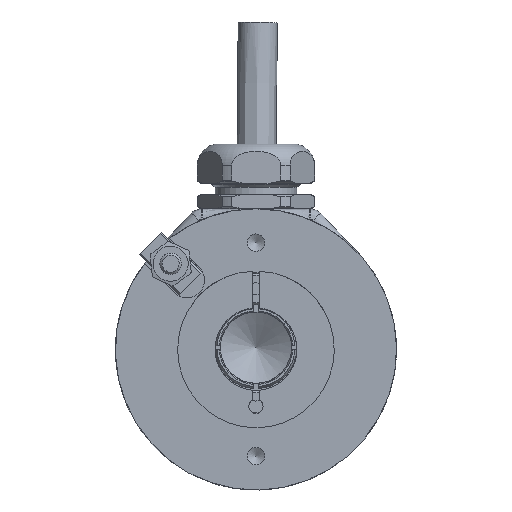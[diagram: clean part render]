
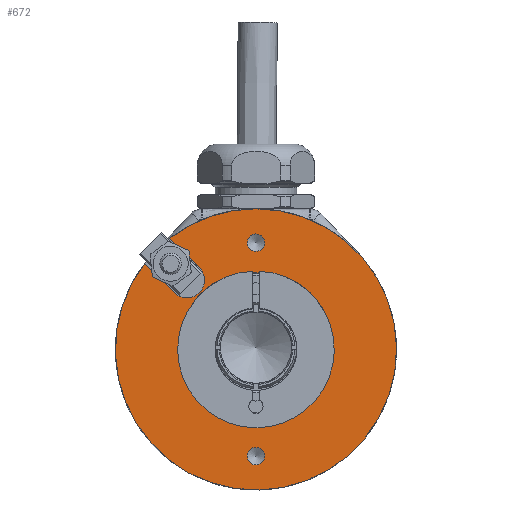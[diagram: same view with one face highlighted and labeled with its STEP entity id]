
A CAD part, left-side view. The second image highlights one B-rep face of the part: STEP entity #672.
In plain terms, the highlighted planar face has unit normal (-1, 0, 0).
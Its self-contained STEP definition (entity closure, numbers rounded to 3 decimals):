
#672 = ADVANCED_FACE( '', ( #1668, #1669, #1670, #1671 ), #1672, .T. );
#1668 = FACE_OUTER_BOUND( '', #3182, .T. );
#1669 = FACE_BOUND( '', #3183, .T. );
#1670 = FACE_BOUND( '', #3184, .T. );
#1671 = FACE_BOUND( '', #3185, .T. );
#1672 = PLANE( '', #3186 );
#3182 = EDGE_LOOP( '', ( #5462, #5463, #5464, #5465 ) );
#3183 = EDGE_LOOP( '', ( #5466 ) );
#3184 = EDGE_LOOP( '', ( #5467 ) );
#3185 = EDGE_LOOP( '', ( #5468 ) );
#3186 = AXIS2_PLACEMENT_3D( '', #5469, #5470, #5471 );
#5462 = ORIENTED_EDGE( '', *, *, #8334, .F. );
#5463 = ORIENTED_EDGE( '', *, *, #8335, .F. );
#5464 = ORIENTED_EDGE( '', *, *, #8336, .F. );
#5465 = ORIENTED_EDGE( '', *, *, #8156, .T. );
#5466 = ORIENTED_EDGE( '', *, *, #8337, .T. );
#5467 = ORIENTED_EDGE( '', *, *, #8338, .T. );
#5468 = ORIENTED_EDGE( '', *, *, #8339, .F. );
#5469 = CARTESIAN_POINT( '', ( 0., 0., 10.539 ) );
#5470 = DIRECTION( '', ( -1., 0., 0. ) );
#5471 = DIRECTION( '', ( 0., 0., 1. ) );
#8156 = EDGE_CURVE( '', #9419, #9416, #9420, .T. );
#8334 = EDGE_CURVE( '', #9713, #9416, #9714, .T. );
#8335 = EDGE_CURVE( '', #9715, #9713, #9716, .T. );
#8336 = EDGE_CURVE( '', #9419, #9715, #9717, .T. );
#8337 = EDGE_CURVE( '', #9718, #9718, #9719, .T. );
#8338 = EDGE_CURVE( '', #9720, #9720, #9721, .T. );
#8339 = EDGE_CURVE( '', #9722, #9722, #9723, .T. );
#9416 = VERTEX_POINT( '', #11137 );
#9419 = VERTEX_POINT( '', #11141 );
#9420 = CIRCLE( '', #11142, 19.75 );
#9713 = VERTEX_POINT( '', #11675 );
#9714 = LINE( '', #11676, #11677 );
#9715 = VERTEX_POINT( '', #11678 );
#9716 = CIRCLE( '', #11679, 2.5 );
#9717 = LINE( '', #11680, #11681 );
#9718 = VERTEX_POINT( '', #11682 );
#9719 = CIRCLE( '', #11683, 1.23 );
#9720 = VERTEX_POINT( '', #11684 );
#9721 = CIRCLE( '', #11685, 1.23 );
#9722 = VERTEX_POINT( '', #11686 );
#9723 = CIRCLE( '', #11687, 10.789 );
#11137 = CARTESIAN_POINT( '', ( 0., 12.085, 15.371 ) );
#11141 = CARTESIAN_POINT( '', ( 0., 15.621, 11.835 ) );
#11142 = AXIS2_PLACEMENT_3D( '', #14157, #14158, #14159 );
#11675 = CARTESIAN_POINT( '', ( 0., 7.955, 11.24 ) );
#11676 = CARTESIAN_POINT( '', ( 0., 7.955, 11.24 ) );
#11677 = VECTOR( '', #14390, 1000. );
#11678 = CARTESIAN_POINT( '', ( 0., 11.49, 7.705 ) );
#11679 = AXIS2_PLACEMENT_3D( '', #14391, #14392, #14393 );
#11680 = CARTESIAN_POINT( '', ( 0., 11.49, 7.705 ) );
#11681 = VECTOR( '', #14394, 1000. );
#11682 = CARTESIAN_POINT( '', ( 0., 0., -14.021 ) );
#11683 = AXIS2_PLACEMENT_3D( '', #14395, #14396, #14397 );
#11684 = CARTESIAN_POINT( '', ( 0., 0., 15.98 ) );
#11685 = AXIS2_PLACEMENT_3D( '', #14398, #14399, #14400 );
#11686 = CARTESIAN_POINT( '', ( 0., 0., 10.539 ) );
#11687 = AXIS2_PLACEMENT_3D( '', #14401, #14402, #14403 );
#14157 = CARTESIAN_POINT( '', ( 0., 0., -0.25 ) );
#14158 = DIRECTION( '', ( -1., 0., 0. ) );
#14159 = DIRECTION( '', ( 0., 0., 1. ) );
#14390 = DIRECTION( '', ( 0., 0.707, 0.707 ) );
#14391 = CARTESIAN_POINT( '', ( 0., 9.723, 9.473 ) );
#14392 = DIRECTION( '', ( -1., 0., 0. ) );
#14393 = DIRECTION( '', ( 0., 0., 1. ) );
#14394 = DIRECTION( '', ( 0., -0.707, -0.707 ) );
#14395 = CARTESIAN_POINT( '', ( 0., 0., -15.25 ) );
#14396 = DIRECTION( '', ( 1., 0., 0. ) );
#14397 = DIRECTION( '', ( 0., 0., 1. ) );
#14398 = CARTESIAN_POINT( '', ( 0., 0., 14.75 ) );
#14399 = DIRECTION( '', ( 1., 0., 0. ) );
#14400 = DIRECTION( '', ( 0., 0., 1. ) );
#14401 = CARTESIAN_POINT( '', ( 0., 0., -0.25 ) );
#14402 = DIRECTION( '', ( -1., 0., 0. ) );
#14403 = DIRECTION( '', ( 0., 0., 1. ) );
